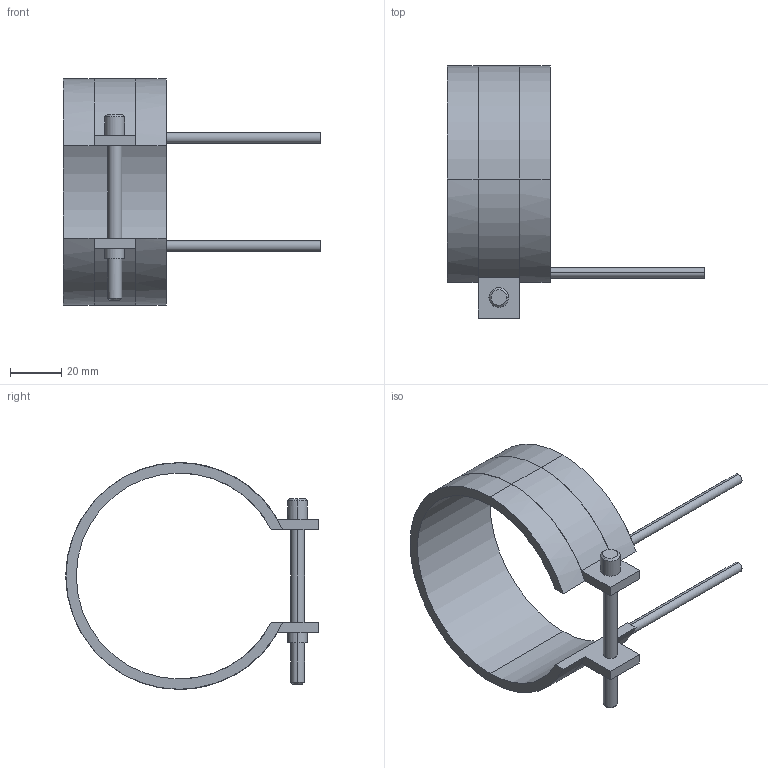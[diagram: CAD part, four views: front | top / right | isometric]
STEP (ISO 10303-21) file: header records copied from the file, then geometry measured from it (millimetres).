
FILE_DESCRIPTION(('CATIA V5 STEP Exchange'),'2;1');
FILE_NAME('C:\Users\Utente\Desktop\IO LAVORO\3D X SITO CF\X SITO\PLASTICA\RF2\14080040.stp','2021-04-03T08:03:40+00:00',('none'),('none'),'CATIA Version 5 Release 20 GA (IN-10)','CATIA V5 STEP AP203','none');
FILE_SCHEMA(('CONFIG_CONTROL_DESIGN'));
Length unit declared in the file: millimetre
Products named in the file (1): 14080040
Bounding box: 100 x 98.1 x 88.2 mm (x, y, z)
Volume: 41741.9 mm3; surface area: 24129.1 mm2
Topology: 1 solids, 1 shells, 45 faces, 116 edges, 76 vertices
Faces by surface type: cylinder 24, plane 17, cone 4
Entity records: 1418 total; most frequent: CARTESIAN_POINT 296, ORIENTED_EDGE 232, DIRECTION 194, EDGE_CURVE 116, AXIS2_PLACEMENT_3D 102, VERTEX_POINT 76, CIRCLE 60, VECTOR 52
